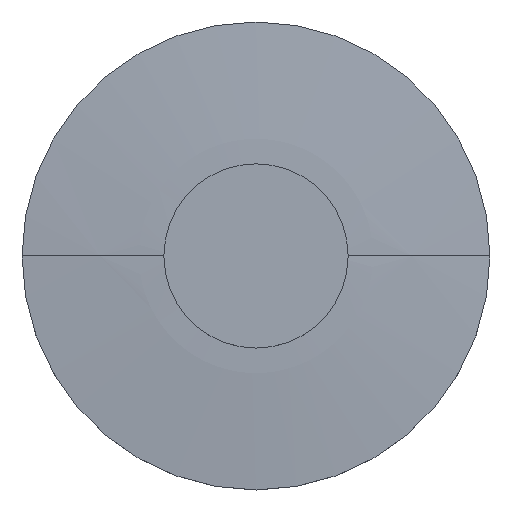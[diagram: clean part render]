
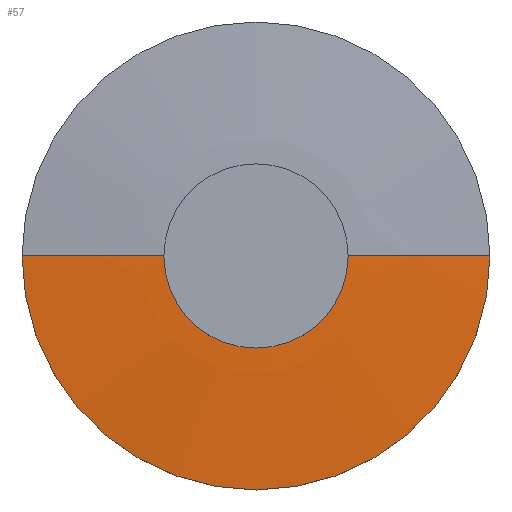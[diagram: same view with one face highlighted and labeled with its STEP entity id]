
A CAD part, top view. The second image highlights one B-rep face of the part: STEP entity #57.
In plain terms, the highlighted spherical face has radius 282.805 mm.
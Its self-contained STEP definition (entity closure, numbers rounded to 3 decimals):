
#57=ADVANCED_FACE('',(#71),#72,.T.);
#71=FACE_OUTER_BOUND('',#91,.T.);
#72=SPHERICAL_SURFACE('',#92,282.805);
#91=EDGE_LOOP('',(#124,#125,#126));
#92=AXIS2_PLACEMENT_3D('',#127,#128,#129);
#124=ORIENTED_EDGE('',*,*,#173,.T.);
#125=ORIENTED_EDGE('',*,*,#174,.T.);
#126=ORIENTED_EDGE('',*,*,#175,.T.);
#127=CARTESIAN_POINT('',(0.0,0.0,-273.305));
#128=DIRECTION('',(0.0,0.0,1.0));
#129=DIRECTION('',(1.0,0.0,0.0));
#173=EDGE_CURVE('',#189,#194,#195,.T.);
#174=EDGE_CURVE('',#194,#191,#196,.T.);
#175=EDGE_CURVE('',#191,#189,#197,.T.);
#189=VERTEX_POINT('',#215);
#191=VERTEX_POINT('',#218);
#194=VERTEX_POINT('',#222);
#195=CIRCLE('',#223,282.805);
#196=CIRCLE('',#224,282.805);
#197=CIRCLE('',#225,25.4);
#215=CARTESIAN_POINT('',(25.4,0.,8.357));
#218=CARTESIAN_POINT('',(-25.4,0.,8.357));
#222=CARTESIAN_POINT('',(0.0,0.0,9.5));
#223=AXIS2_PLACEMENT_3D('',#253,#254,#255);
#224=AXIS2_PLACEMENT_3D('',#256,#257,#258);
#225=AXIS2_PLACEMENT_3D('',#259,#260,#261);
#253=CARTESIAN_POINT('',(0.0,0.0,-273.305));
#254=DIRECTION('',(0.,-1.0,0.0));
#255=DIRECTION('',(0.0,0.0,1.0));
#256=CARTESIAN_POINT('',(0.0,0.0,-273.305));
#257=DIRECTION('',(0.,-1.0,0.0));
#258=DIRECTION('',(0.0,0.0,1.0));
#259=CARTESIAN_POINT('',(0.0,0.0,8.357));
#260=DIRECTION('',(0.0,0.0,1.0));
#261=DIRECTION('',(1.0,0.0,0.0));
